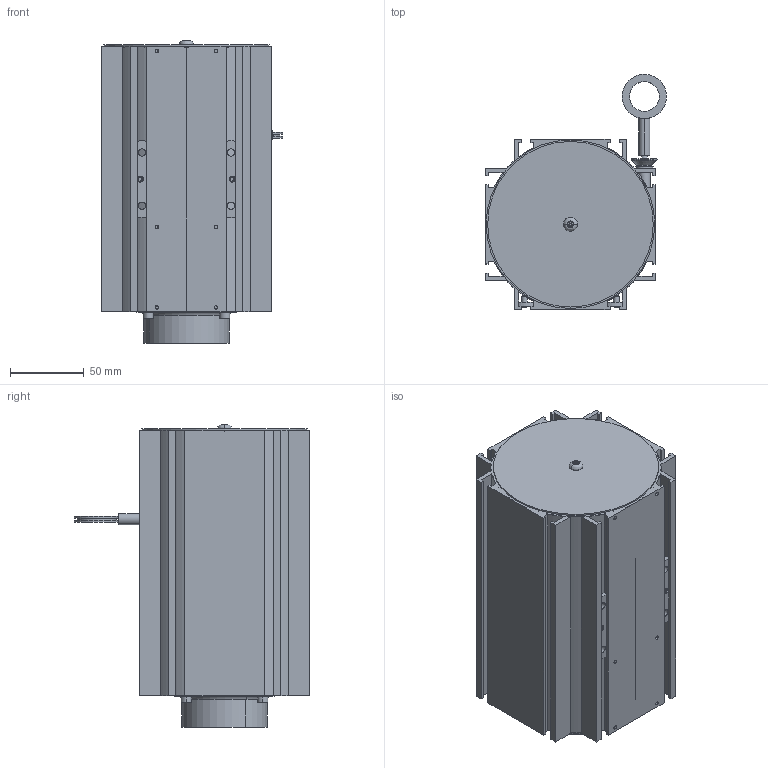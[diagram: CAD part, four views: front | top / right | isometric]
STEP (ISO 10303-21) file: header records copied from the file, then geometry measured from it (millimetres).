
FILE_DESCRIPTION((''),'2;1');
FILE_NAME('WDS_15000_P115_M_SO_SW0002','2010-10-12T',('15000411'),(''),'PRO/ENGINEER BY PARAMETRIC TECHNOLOGY CORPORATION, 2010020','PRO/ENGINEER BY PARAMETRIC TECHNOLOGY CORPORATION, 2010020','');
FILE_SCHEMA(('CONFIG_CONTROL_DESIGN'));
Length unit declared in the file: millimetre
Products named in the file (1): WDS_15000_P115_M_SO_SW0002
Bounding box: 122.5 x 159 x 204.45 mm (x, y, z)
Volume: 209430.3 mm3; surface area: 245374 mm2
Topology: 19 solids, 21 shells, 939 faces, 2607 edges, 1668 vertices
Faces by surface type: plane 523, cylinder 248, cone 68, torus 42, sphere 36, revolution 16, extrusion 4, bspline 2
Entity records: 33365 total; most frequent: CARTESIAN_POINT 9386, ORIENTED_EDGE 5110, DIRECTION 4872, EDGE_CURVE 2555, AXIS2_PLACEMENT_3D 1805, VERTEX_POINT 1668, VECTOR 1246, LINE 1242
